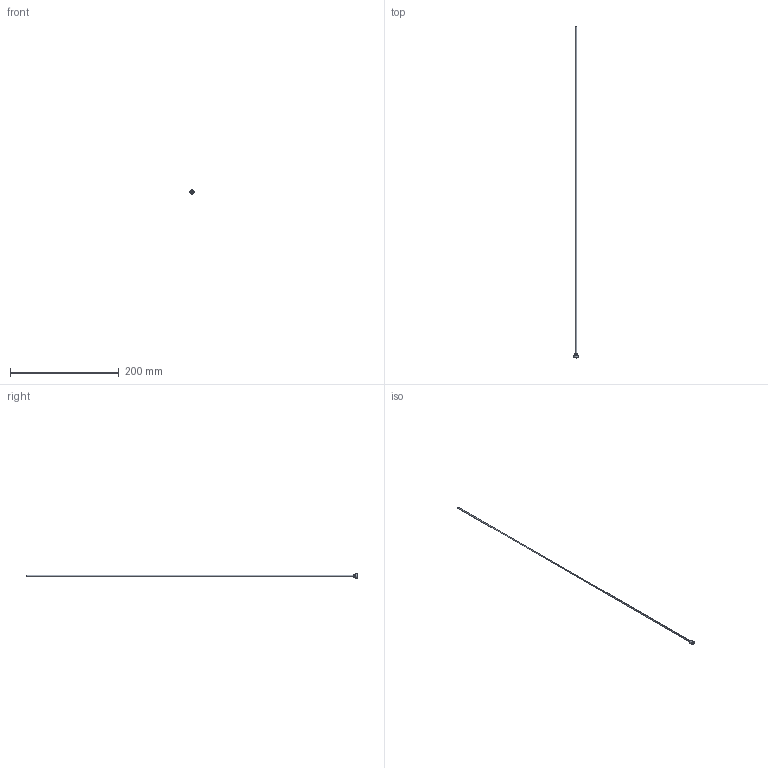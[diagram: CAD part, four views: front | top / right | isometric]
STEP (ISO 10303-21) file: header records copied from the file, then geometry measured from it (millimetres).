
FILE_DESCRIPTION(/* description */ (''),/* implementation_level */ '2;1');
FILE_NAME(/* name */ 'C:/Users/drich/Desktop/PT16-093-24 v1.step',/* time_stamp */ '2019-12-27T15:15:46-06:00',/* author */ (''),/* organization */ (''),/* preprocessor_version */ 'ST-DEVELOPER v18',/* originating_system */ 'Autodesk Translation Framework v8.12.0.6',/* authorisation */ '');
FILE_SCHEMA (('AUTOMOTIVE_DESIGN { 1 0 10303 214 3 1 1 }'));
Length unit declared in the file: inch
Products named in the file (1): PT16-093-24
Bounding box: 7.62 x 609.6 x 7.62 mm (x, y, z)
Volume: 942.5 mm3; surface area: 8283 mm2
Topology: 1 solids, 1 shells, 19 faces, 48 edges, 34 vertices
Faces by surface type: plane 11, cylinder 4, torus 2, cone 2
Full cylindrical faces by diameter (mm): 1.93 x1, 2.286 x1, 4.724 x1, 7.616 x1
Entity records: 633 total; most frequent: DIRECTION 112, CARTESIAN_POINT 102, ORIENTED_EDGE 96, EDGE_CURVE 48, AXIS2_PLACEMENT_3D 44, VERTEX_POINT 34, CIRCLE 24, EDGE_LOOP 24
